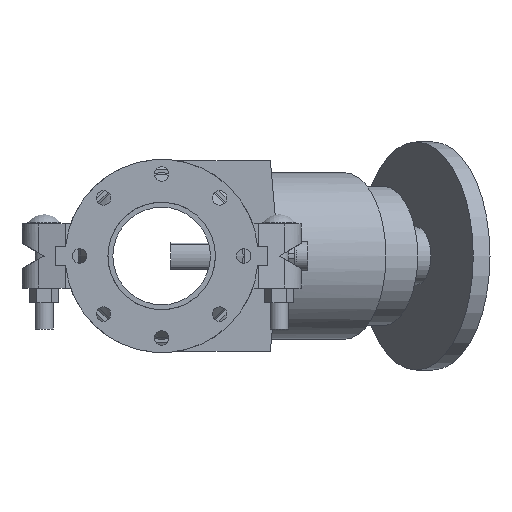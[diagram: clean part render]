
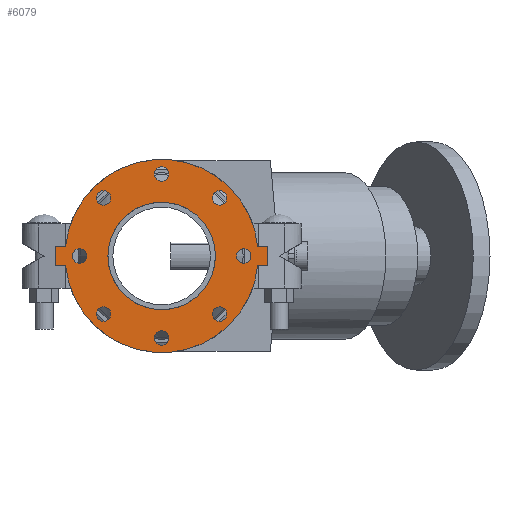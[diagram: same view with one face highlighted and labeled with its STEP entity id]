
A CAD part, front view. The second image highlights one B-rep face of the part: STEP entity #6079.
In plain terms, the highlighted planar face has unit normal (0, -1, 0) as drawn and (0, 0, 1) by its records, which use the part's own axes.
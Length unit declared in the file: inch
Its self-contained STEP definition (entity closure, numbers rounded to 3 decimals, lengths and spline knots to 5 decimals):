
#178=FACE_BOUND('',#792,.T.);
#179=FACE_BOUND('',#793,.T.);
#180=FACE_BOUND('',#794,.T.);
#181=FACE_BOUND('',#795,.T.);
#182=FACE_BOUND('',#796,.T.);
#183=FACE_BOUND('',#797,.T.);
#184=FACE_BOUND('',#798,.T.);
#185=FACE_BOUND('',#799,.T.);
#186=FACE_BOUND('',#800,.T.);
#250=PLANE('',#6633);
#450=FACE_OUTER_BOUND('',#791,.T.);
#791=EDGE_LOOP('',(#3957,#3958,#3959,#3960,#3961,#3962,#3963,#3964));
#792=EDGE_LOOP('',(#3965));
#793=EDGE_LOOP('',(#3966));
#794=EDGE_LOOP('',(#3967));
#795=EDGE_LOOP('',(#3968));
#796=EDGE_LOOP('',(#3969));
#797=EDGE_LOOP('',(#3970));
#798=EDGE_LOOP('',(#3971));
#799=EDGE_LOOP('',(#3972));
#800=EDGE_LOOP('',(#3973,#3974));
#1190=LINE('',#9322,#1635);
#1191=LINE('',#9325,#1636);
#1194=LINE('',#9330,#1639);
#1195=LINE('',#9333,#1640);
#1197=LINE('',#9336,#1642);
#1198=LINE('',#9338,#1643);
#1635=VECTOR('',#7419,0.3937);
#1636=VECTOR('',#7422,0.3937);
#1639=VECTOR('',#7427,0.3937);
#1640=VECTOR('',#7430,0.3937);
#1642=VECTOR('',#7434,0.3937);
#1643=VECTOR('',#7437,0.3937);
#2060=CIRCLE('',#6592,0.375);
#2062=CIRCLE('',#6595,0.375);
#2064=CIRCLE('',#6598,0.375);
#2066=CIRCLE('',#6601,0.375);
#2068=CIRCLE('',#6604,0.375);
#2070=CIRCLE('',#6607,0.375);
#2072=CIRCLE('',#6610,0.375);
#2074=CIRCLE('',#6613,0.375);
#2080=CIRCLE('',#6621,5.);
#2081=CIRCLE('',#6623,2.7815);
#2082=CIRCLE('',#6624,2.7815);
#2083=CIRCLE('',#6626,5.);
#2413=VERTEX_POINT('',#9233);
#2415=VERTEX_POINT('',#9239);
#2417=VERTEX_POINT('',#9245);
#2419=VERTEX_POINT('',#9251);
#2421=VERTEX_POINT('',#9257);
#2423=VERTEX_POINT('',#9263);
#2425=VERTEX_POINT('',#9269);
#2427=VERTEX_POINT('',#9275);
#2439=VERTEX_POINT('',#9302);
#2440=VERTEX_POINT('',#9304);
#2441=VERTEX_POINT('',#9308);
#2442=VERTEX_POINT('',#9310);
#2443=VERTEX_POINT('',#9314);
#2444=VERTEX_POINT('',#9316);
#2445=VERTEX_POINT('',#9320);
#2446=VERTEX_POINT('',#9324);
#2447=VERTEX_POINT('',#9328);
#2448=VERTEX_POINT('',#9332);
#3002=EDGE_CURVE('',#2413,#2413,#2060,.T.);
#3005=EDGE_CURVE('',#2415,#2415,#2062,.T.);
#3008=EDGE_CURVE('',#2417,#2417,#2064,.T.);
#3011=EDGE_CURVE('',#2419,#2419,#2066,.T.);
#3014=EDGE_CURVE('',#2421,#2421,#2068,.T.);
#3017=EDGE_CURVE('',#2423,#2423,#2070,.T.);
#3020=EDGE_CURVE('',#2425,#2425,#2072,.T.);
#3023=EDGE_CURVE('',#2427,#2427,#2074,.T.);
#3038=EDGE_CURVE('',#2439,#2440,#2080,.T.);
#3040=EDGE_CURVE('',#2442,#2441,#2081,.T.);
#3041=EDGE_CURVE('',#2441,#2442,#2082,.T.);
#3043=EDGE_CURVE('',#2444,#2443,#2083,.T.);
#3046=EDGE_CURVE('',#2440,#2445,#1190,.T.);
#3047=EDGE_CURVE('',#2446,#2444,#1191,.T.);
#3050=EDGE_CURVE('',#2443,#2447,#1194,.T.);
#3051=EDGE_CURVE('',#2448,#2439,#1195,.T.);
#3053=EDGE_CURVE('',#2447,#2448,#1197,.T.);
#3054=EDGE_CURVE('',#2445,#2446,#1198,.T.);
#3957=ORIENTED_EDGE('',*,*,#3050,.T.);
#3958=ORIENTED_EDGE('',*,*,#3053,.T.);
#3959=ORIENTED_EDGE('',*,*,#3051,.T.);
#3960=ORIENTED_EDGE('',*,*,#3038,.T.);
#3961=ORIENTED_EDGE('',*,*,#3046,.T.);
#3962=ORIENTED_EDGE('',*,*,#3054,.T.);
#3963=ORIENTED_EDGE('',*,*,#3047,.T.);
#3964=ORIENTED_EDGE('',*,*,#3043,.T.);
#3965=ORIENTED_EDGE('',*,*,#3002,.T.);
#3966=ORIENTED_EDGE('',*,*,#3005,.T.);
#3967=ORIENTED_EDGE('',*,*,#3008,.T.);
#3968=ORIENTED_EDGE('',*,*,#3011,.T.);
#3969=ORIENTED_EDGE('',*,*,#3014,.T.);
#3970=ORIENTED_EDGE('',*,*,#3017,.T.);
#3971=ORIENTED_EDGE('',*,*,#3020,.T.);
#3972=ORIENTED_EDGE('',*,*,#3023,.T.);
#3973=ORIENTED_EDGE('',*,*,#3040,.T.);
#3974=ORIENTED_EDGE('',*,*,#3041,.T.);
#6079=ADVANCED_FACE('',(#450,#178,#179,#180,#181,#182,#183,#184,#185,#186),
#250,.T.);
#6592=AXIS2_PLACEMENT_3D('',#9234,#7327,#7328);
#6595=AXIS2_PLACEMENT_3D('',#9240,#7334,#7335);
#6598=AXIS2_PLACEMENT_3D('',#9246,#7341,#7342);
#6601=AXIS2_PLACEMENT_3D('',#9252,#7348,#7349);
#6604=AXIS2_PLACEMENT_3D('',#9258,#7355,#7356);
#6607=AXIS2_PLACEMENT_3D('',#9264,#7362,#7363);
#6610=AXIS2_PLACEMENT_3D('',#9270,#7369,#7370);
#6613=AXIS2_PLACEMENT_3D('',#9276,#7376,#7377);
#6621=AXIS2_PLACEMENT_3D('',#9306,#7401,#7402);
#6623=AXIS2_PLACEMENT_3D('',#9311,#7406,#7407);
#6624=AXIS2_PLACEMENT_3D('',#9312,#7408,#7409);
#6626=AXIS2_PLACEMENT_3D('',#9317,#7413,#7414);
#6633=AXIS2_PLACEMENT_3D('',#9339,#7438,#7439);
#7327=DIRECTION('center_axis',(0.,0.,-1.));
#7328=DIRECTION('ref_axis',(-0.707,0.707,0.));
#7334=DIRECTION('center_axis',(0.,0.,-1.));
#7335=DIRECTION('ref_axis',(0.,1.,0.));
#7341=DIRECTION('center_axis',(0.,0.,-1.));
#7342=DIRECTION('ref_axis',(0.707,0.707,0.));
#7348=DIRECTION('center_axis',(0.,0.,-1.));
#7349=DIRECTION('ref_axis',(1.,0.,0.));
#7355=DIRECTION('center_axis',(0.,0.,-1.));
#7356=DIRECTION('ref_axis',(0.707,-0.707,0.));
#7362=DIRECTION('center_axis',(0.,0.,-1.));
#7363=DIRECTION('ref_axis',(0.,-1.,0.));
#7369=DIRECTION('center_axis',(0.,0.,-1.));
#7370=DIRECTION('ref_axis',(-0.707,-0.707,0.));
#7376=DIRECTION('center_axis',(0.,0.,-1.));
#7377=DIRECTION('ref_axis',(-1.,0.,0.));
#7401=DIRECTION('center_axis',(0.,0.,1.));
#7402=DIRECTION('ref_axis',(-1.,0.,0.));
#7406=DIRECTION('center_axis',(0.,0.,-1.));
#7407=DIRECTION('ref_axis',(-1.,0.,0.));
#7408=DIRECTION('center_axis',(0.,0.,-1.));
#7409=DIRECTION('ref_axis',(-1.,0.,0.));
#7413=DIRECTION('center_axis',(0.,0.,1.));
#7414=DIRECTION('ref_axis',(-1.,0.,0.));
#7419=DIRECTION('',(0.,1.,0.));
#7422=DIRECTION('',(0.,-1.,0.));
#7427=DIRECTION('',(0.,-1.,0.));
#7430=DIRECTION('',(0.,1.,0.));
#7434=DIRECTION('',(1.,0.,0.));
#7437=DIRECTION('',(-1.,0.,0.));
#7438=DIRECTION('center_axis',(0.,0.,1.));
#7439=DIRECTION('ref_axis',(1.,0.,0.));
#9233=CARTESIAN_POINT('',(-2.74004,2.74004,0.5));
#9234=CARTESIAN_POINT('Origin',(-3.0052,3.0052,0.5));
#9239=CARTESIAN_POINT('',(0.,3.875,0.5));
#9240=CARTESIAN_POINT('Origin',(0.,4.25,0.5));
#9245=CARTESIAN_POINT('',(2.74004,2.74004,0.5));
#9246=CARTESIAN_POINT('Origin',(3.0052,3.0052,0.5));
#9251=CARTESIAN_POINT('',(3.875,0.,0.5));
#9252=CARTESIAN_POINT('Origin',(4.25,0.,0.5));
#9257=CARTESIAN_POINT('',(2.74004,-2.74004,0.5));
#9258=CARTESIAN_POINT('Origin',(3.0052,-3.0052,0.5));
#9263=CARTESIAN_POINT('',(0.,-3.875,0.5));
#9264=CARTESIAN_POINT('Origin',(0.,-4.25,0.5));
#9269=CARTESIAN_POINT('',(-2.74004,-2.74004,0.5));
#9270=CARTESIAN_POINT('Origin',(-3.0052,-3.0052,0.5));
#9275=CARTESIAN_POINT('',(-3.875,0.,0.5));
#9276=CARTESIAN_POINT('Origin',(-4.25,0.,0.5));
#9302=CARTESIAN_POINT('',(0.5,-4.97494,0.5));
#9304=CARTESIAN_POINT('',(0.5,4.97494,0.5));
#9306=CARTESIAN_POINT('Origin',(0.,0.,0.5));
#9308=CARTESIAN_POINT('',(2.7815,0.,0.5));
#9310=CARTESIAN_POINT('',(0.5,2.73619,0.5));
#9311=CARTESIAN_POINT('Origin',(0.,0.,0.5));
#9312=CARTESIAN_POINT('Origin',(0.,0.,0.5));
#9314=CARTESIAN_POINT('',(-0.5,-4.97494,0.5));
#9316=CARTESIAN_POINT('',(-0.5,4.97494,0.5));
#9317=CARTESIAN_POINT('Origin',(0.,0.,0.5));
#9320=CARTESIAN_POINT('',(0.5,5.5,0.5));
#9322=CARTESIAN_POINT('',(0.5,5.5,0.5));
#9324=CARTESIAN_POINT('',(-0.5,5.5,0.5));
#9325=CARTESIAN_POINT('',(-0.5,-5.5,0.5));
#9328=CARTESIAN_POINT('',(-0.5,-5.5,0.5));
#9330=CARTESIAN_POINT('',(-0.5,-5.5,0.5));
#9332=CARTESIAN_POINT('',(0.5,-5.5,0.5));
#9333=CARTESIAN_POINT('',(0.5,5.5,0.5));
#9336=CARTESIAN_POINT('',(0.5,-5.5,0.5));
#9338=CARTESIAN_POINT('',(-0.5,5.5,0.5));
#9339=CARTESIAN_POINT('Origin',(0.,0.,0.5));
